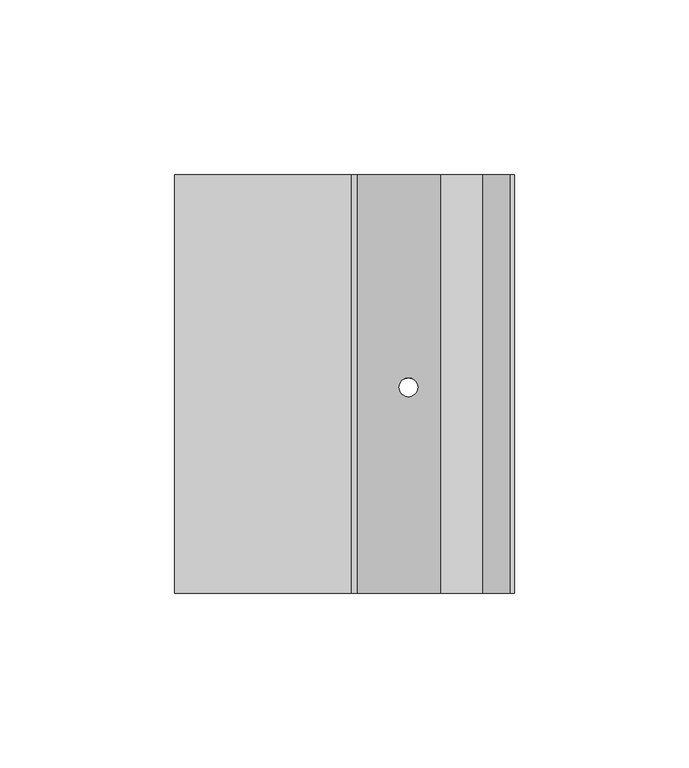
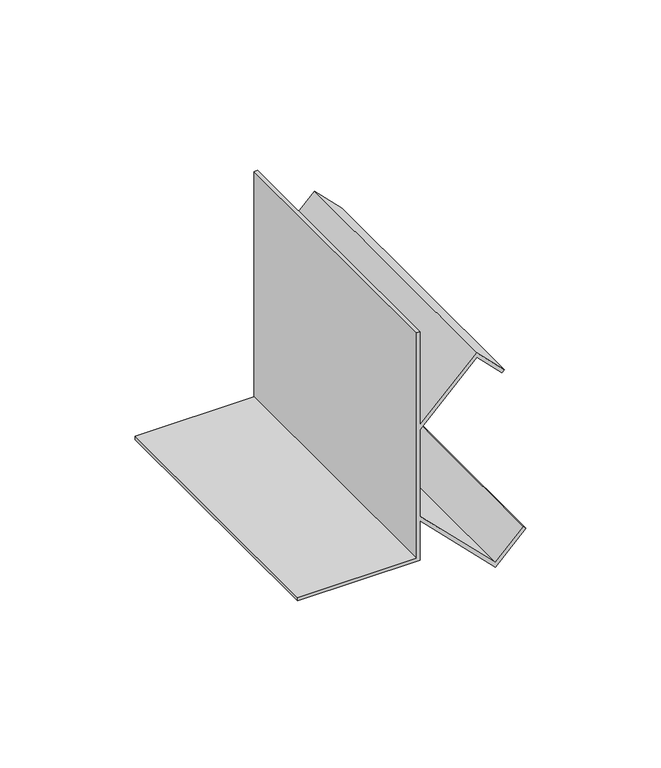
"""IFC4 building model written with IfcOpenShell, lengths in millimetres: proxy geometry, Mechanical Fittings & Accessories30 : Mechanical Fittings & Accessories."""

from ifc_helpers import new_model, si_unit, frame, origin, place, context, project, spatial, polyline, ellipse_curve, source, transform, mapped, element, save
from ifc_brep_helpers import plane_surface, revolved_surface, advanced_brep


def generic_models_220f91b8(model_context):
    return source(origin(), model_context, "Body", "AdvancedBrep", [
        advanced_brep(
        [(-13439.8639562, 12023.4963986, 4114.8), (-13490.6639562, 12023.4963986, 4114.8), (-13490.6639562, 12023.4963986, 4113.3117188), (-13438.375675, 12023.4963986, 4113.3117188), (-13438.375675, 12023.4963986, 4131.1383509), (-13406.265914, 12023.4963986, 4099.0285899), (-13393.2869427, 12023.4963986, 4112.0075612), (-13394.3393164, 12023.4963986, 4113.059935), (-13406.265914, 12023.4963986, 4101.1333374), (-13438.375675, 12023.4963986, 4133.2430984), (-13438.375675, 12023.4963986, 4172.2761118), (-13414.203414, 12023.4963986, 4196.4483729), (-13403.4674414, 12023.4963986, 4185.7124003), (-13402.4150677, 12023.4963986, 4186.7647741), (-13414.203414, 12023.4963986, 4198.5531204), (-13438.375675, 12023.4963986, 4174.3808594), (-13438.375675, 12023.4963986, 4216.4), (-13439.8639562, 12023.4963986, 4216.4), (-13439.8639562, 12143.4645457, 4114.8), (-13439.8639562, 12143.4645457, 4216.4), (-13438.375675, 12143.4645457, 4216.4), (-13438.375675, 12143.4645457, 4174.3808594), (-13414.203414, 12143.4645457, 4198.5531204), (-13402.4150677, 12143.4645457, 4186.7647741), (-13403.4674414, 12143.4645457, 4185.7124003), (-13414.203414, 12143.4645457, 4196.4483729), (-13438.375675, 12143.4645457, 4172.2761118), (-13438.375675, 12143.4645457, 4133.2430984), (-13406.265914, 12143.4645457, 4101.1333374), (-13394.3393164, 12143.4645457, 4113.059935), (-13393.2869427, 12143.4645457, 4112.0075612), (-13406.265914, 12143.4645457, 4099.0285899), (-13438.375675, 12143.4645457, 4131.1383509), (-13438.375675, 12143.4645457, 4113.3117188), (-13490.6639562, 12143.4645457, 4113.3117188), (-13490.6639562, 12143.4645457, 4114.8), (-13426.2617646, 12082.5191481, 4119.0244406), (-13420.9223978, 12082.5191481, 4113.6850737), (-13420.9223978, 12082.5191481, 4115.7898213), (-13426.2617646, 12082.5191481, 4121.1291881), (-13426.2617646, 12082.5191481, 4184.3900222), (-13420.9223978, 12082.5191481, 4189.729389), (-13420.9223978, 12082.5191481, 4191.8341365), (-13426.2617646, 12082.5191481, 4186.4947697)],
        [
            (0, 1),
            (1, 2),
            (2, 3),
            (3, 4),
            (4, 5),
            (5, 6),
            (6, 7),
            (7, 8),
            (8, 9),
            (9, 10),
            (10, 11),
            (11, 12),
            (12, 13),
            (13, 14),
            (14, 15),
            (15, 16),
            (16, 17),
            (17, 0),
            (18, 19),
            (19, 20),
            (20, 21),
            (21, 22),
            (22, 23),
            (23, 24),
            (24, 25),
            (25, 26),
            (26, 27),
            (27, 28),
            (28, 29),
            (29, 30),
            (30, 31),
            (31, 32),
            (32, 33),
            (33, 34),
            (34, 35),
            (35, 18),
            (0, 18),
            (35, 1),
            (34, 2),
            (33, 3),
            (32, 4),
            (31, 5),
            (36, 37, ellipse_curve(frame((-13423.5920812, 12082.5191481, 4116.3547571), z_axis=(0.7071067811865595, 0.0, 0.7071067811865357), x_axis=(-0.7071067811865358, 0.0, 0.7071067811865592)), 3.7755025, 2.6696834)),
            (37, 36, ellipse_curve(frame((-13423.5920812, 12082.5191481, 4116.3547571), z_axis=(0.7071067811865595, 0.0, 0.7071067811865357), x_axis=(-0.7071067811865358, 0.0, 0.7071067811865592)), 3.7755025, 2.6696834)),
            (30, 6),
            (29, 7),
            (28, 8),
            (27, 9),
            (38, 39, ellipse_curve(frame((-13423.5920812, 12082.5191481, 4118.4595047), z_axis=(-0.7071067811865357, 0.0, -0.7071067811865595), x_axis=(-0.7071067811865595, 0.0, 0.7071067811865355)), 3.7755025, 2.6696834)),
            (39, 38, ellipse_curve(frame((-13423.5920812, 12082.5191481, 4118.4595047), z_axis=(-0.7071067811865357, 0.0, -0.7071067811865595), x_axis=(-0.7071067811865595, 0.0, 0.7071067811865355)), 3.7755025, 2.6696834)),
            (26, 10),
            (25, 11),
            (40, 41, ellipse_curve(frame((-13423.5920812, 12082.5191481, 4187.0597056), z_axis=(-0.7071067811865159, 0.0, 0.7071067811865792), x_axis=(0.7071067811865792, 0.0, 0.7071067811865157)), 3.7755025, 2.6696834)),
            (41, 40, ellipse_curve(frame((-13423.5920812, 12082.5191481, 4187.0597056), z_axis=(-0.7071067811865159, 0.0, 0.7071067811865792), x_axis=(0.7071067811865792, 0.0, 0.7071067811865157)), 3.7755025, 2.6696834)),
            (24, 12),
            (23, 13),
            (22, 14),
            (21, 15),
            (42, 43, ellipse_curve(frame((-13423.5920812, 12082.5191481, 4189.1644531), z_axis=(0.7071067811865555, 0.0, -0.7071067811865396), x_axis=(0.7071067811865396, 0.0, 0.7071067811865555)), 3.7755025, 2.6696834)),
            (43, 42, ellipse_curve(frame((-13423.5920812, 12082.5191481, 4189.1644531), z_axis=(0.7071067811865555, 0.0, -0.7071067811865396), x_axis=(0.7071067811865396, 0.0, 0.7071067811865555)), 3.7755025, 2.6696834)),
            (20, 16),
            (19, 17),
            (36, 39),
            (38, 37),
            (40, 43),
            (42, 41),
        ],
        [
            plane_surface(frame((-13490.6639562, 12023.4963986, 4114.8), z_axis=(0.0, -1.0, 0.0), x_axis=(-1.0, 0.0, 0.0))),
            plane_surface(frame((-13490.6639562, 12143.4645457, 4114.8), z_axis=(0.0, 1.0, 0.0), x_axis=(1.0, 0.0, 0.0))),
            plane_surface(frame((-13439.8639562, 12023.4963986, 4114.8), z_axis=(0.0, 0.0, 1.0), x_axis=(0.0, 1.0, 0.0))),
            plane_surface(frame((-13490.6639562, 12023.4963986, 4114.8), z_axis=(-1.0, 0.0, 0.0), x_axis=(0.0, 1.0, 0.0))),
            plane_surface(frame((-13490.6639562, 12023.4963986, 4113.3117188), z_axis=(0.0, 0.0, -1.0), x_axis=(0.0, 1.0, 0.0))),
            plane_surface(frame((-13438.375675, 12023.4963986, 4113.3117188), z_axis=(1.0, 0.0, 0.0), x_axis=(0.0, 1.0, 0.0))),
            plane_surface(frame((-13438.375675, 12023.4963986, 4131.1383509), z_axis=(-0.7071067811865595, 0.0, -0.7071067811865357), x_axis=(0.0, 1.0, 0.0))),
            plane_surface(frame((-13406.265914, 12023.4963986, 4099.0285899), z_axis=(0.7071067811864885, 0.0, -0.7071067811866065), x_axis=(0.0, 1.0, 0.0))),
            plane_surface(frame((-13393.2869427, 12023.4963986, 4112.0075612), z_axis=(0.7071067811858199, 0.0, 0.7071067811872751), x_axis=(0.0, 1.0, 0.0))),
            plane_surface(frame((-13394.3393164, 12023.4963986, 4113.059935), z_axis=(-0.7071067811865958, 0.0, 0.7071067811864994), x_axis=(0.0, 1.0, 0.0))),
            plane_surface(frame((-13406.265914, 12023.4963986, 4101.1333374), z_axis=(0.7071067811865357, 0.0, 0.7071067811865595), x_axis=(0.0, 1.0, 0.0))),
            plane_surface(frame((-13438.375675, 12023.4963986, 4133.2430984), z_axis=(1.0, 0.0, 0.0), x_axis=(0.0, 1.0, 0.0))),
            plane_surface(frame((-13438.375675, 12023.4963986, 4172.2761118), z_axis=(0.7071067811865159, 0.0, -0.7071067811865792), x_axis=(0.0, 1.0, 0.0))),
            plane_surface(frame((-13414.203414, 12023.4963986, 4196.4483729), z_axis=(-0.7071067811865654, 0.0, -0.7071067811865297), x_axis=(0.0, 1.0, 0.0))),
            plane_surface(frame((-13403.4674414, 12023.4963986, 4185.7124003), z_axis=(0.7071067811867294, 0.0, -0.7071067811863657), x_axis=(0.0, 1.0, 0.0))),
            plane_surface(frame((-13402.4150677, 12023.4963986, 4186.7647741), z_axis=(0.707106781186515, 0.0, 0.70710678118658), x_axis=(0.0, 1.0, 0.0))),
            plane_surface(frame((-13414.203414, 12023.4963986, 4198.5531204), z_axis=(-0.7071067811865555, 0.0, 0.7071067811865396), x_axis=(0.0, 1.0, 0.0))),
            plane_surface(frame((-13438.375675, 12023.4963986, 4174.3808594), z_axis=(1.0, 0.0, 0.0), x_axis=(0.0, 1.0, 0.0))),
            plane_surface(frame((-13438.375675, 12023.4963986, 4216.4), z_axis=(0.0, 0.0, 1.0), x_axis=(0.0, 1.0, 0.0))),
            plane_surface(frame((-13439.8639562, 12023.4963986, 4216.4), z_axis=(-1.0, 0.0, 0.0), x_axis=(0.0, 1.0, 0.0))),
            revolved_surface(polyline([(-13420.9223978, 12082.5191481, 4121.129188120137), (-13420.9223978, 12082.5191481, 4113.685073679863)]), (-13423.5920812, 12082.5191481, 4097.2034211), (0.0, 0.0, 1.0)),
            revolved_surface(polyline([(-13420.9223978, 12082.5191481, 4191.834136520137), (-13420.9223978, 12082.5191481, 4184.390022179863)]), (-13423.5920812, 12082.5191481, 4097.2034211), (0.0, 0.0, 1.0)),
        ],
        [
            (0, [[1, 2, 3, 4, 5, 6, 7, 8, 9, 10, 11, 12, 13, 14, 15, 16, 17, 18]]),
            (1, [[19, 20, 21, 22, 23, 24, 25, 26, 27, 28, 29, 30, 31, 32, 33, 34, 35, 36]]),
            (2, [[-1, 37, -36, 38]]),
            (3, [[-2, -38, -35, 39]]),
            (4, [[-3, -39, -34, 40]]),
            (5, [[-4, -40, -33, 41]]),
            (6, [[-5, -41, -32, 42], [43, 44]]),
            (7, [[-6, -42, -31, 45]]),
            (8, [[-7, -45, -30, 46]]),
            (9, [[-8, -46, -29, 47]]),
            (10, [[-9, -47, -28, 48], [49, 50]]),
            (11, [[-10, -48, -27, 51]]),
            (12, [[-11, -51, -26, 52], [53, 54]]),
            (13, [[-12, -52, -25, 55]]),
            (14, [[-13, -55, -24, 56]]),
            (15, [[-14, -56, -23, 57]]),
            (16, [[-15, -57, -22, 58], [59, 60]]),
            (17, [[-16, -58, -21, 61]]),
            (18, [[-17, -61, -20, 62]]),
            (19, [[-18, -62, -19, -37]]),
            (20, [[63, -49, 64, -43]]),
            (21, [[65, -59, 66, -53]]),
            (20, [[-63, -44, -64, -50]]),
            (21, [[-65, -54, -66, -60]]),
        ],
    ),
    ])


if __name__ == "__main__":
    model = new_model("IFC4")
    model_context = context("Model", 3, world=origin())
    ifc_project = project(units=[si_unit("LENGTHUNIT", "METRE", prefix="MILLI")], contexts=[model_context])
    site = spatial("IfcSite", under=ifc_project)
    building = spatial("IfcBuilding", under=site)
    placement = place(None, origin())
    generic_models_shape = generic_models_220f91b8(model_context)
    element("IfcBuildingElementProxy", 1, Name="Mechanical Fittings & Accessories30 : Mechanical Fittings & Accessories", ObjectType="Mechanical Fittings & Accessories30 : Mechanical Fittings & Accessories", at=placement, inside=building, context=model_context, shape_type="MappedRepresentation", body=[
        mapped(generic_models_shape, transform((0.0, 0.0, 0.0), x_axis=(1.0, 0.0, 0.0), y_axis=(0.0, 1.0, 0.0), z_axis=(0.0, 0.0, 1.0))),
    ])
    save(model, "model.ifc")
